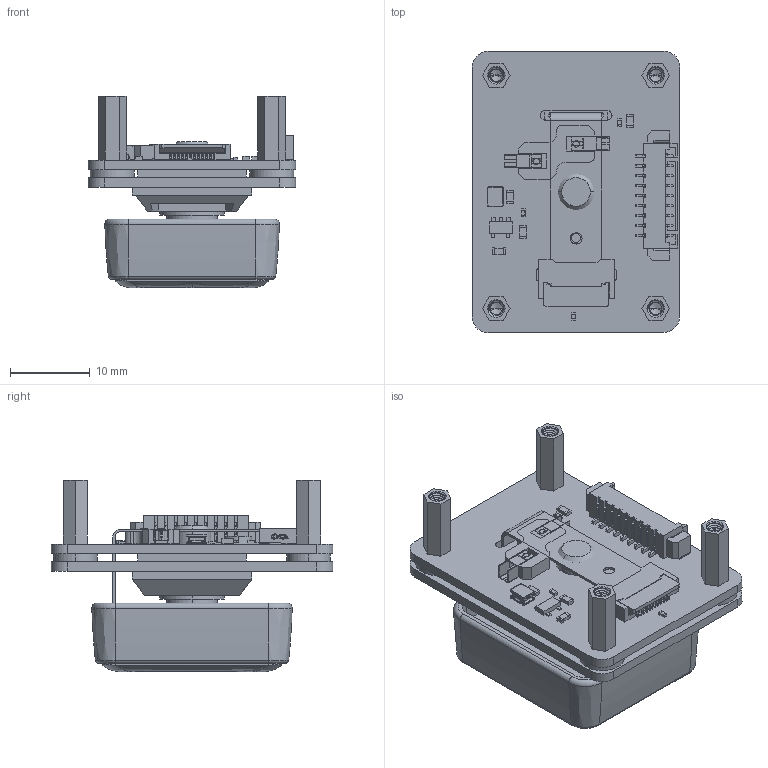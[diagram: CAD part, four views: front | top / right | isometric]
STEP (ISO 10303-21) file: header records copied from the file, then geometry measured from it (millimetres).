
FILE_DESCRIPTION((''),'2;1');
FILE_NAME('0_85INCH-SCREENKEY-MODULE-B_ASM','2026-07-10T17:13:13',('ag'),(''),'CREO PARAMETRIC BY PTC INC, 2021063','CREO PARAMETRIC BY PTC INC, 2021063','');
FILE_SCHEMA(('CONFIG_CONTROL_DESIGN','SHAPE_APPEARANCE_LAYERS_GROUPS'));
Length unit declared in the file: millimetre
Products named in the file (14): 0_85INCH_SCREENKEY_MODULE_ASM; BOARD-TOP; S1-LCD-085_1; S1-KEY-PLASTIC_1; S1-KEY-LENS_1; S1-KEY-RUBBER_1; S1-MAIN-LENS-RON_1; S1-MAIN-PAOMIAN_1_1; S1-MAIN-PAOMIAN_1_2; S1-MAIN-PAOMIAN_1_ASM; ONE-KEY-O85-FPC_1; S1-KEY-ONE_ASM_1_ASM; HEX_STUDS-M2XH8-3; 0_85INCH-SCREENKEY-MODULE-B_ASM
Assembly tree (16 placements, depth 4):
  0_85INCH-SCREENKEY-MODULE-B_ASM
    0_85INCH_SCREENKEY_MODULE_ASM
    BOARD-TOP
    S1-KEY-ONE_ASM_1_ASM
      S1-LCD-085_1
      S1-KEY-PLASTIC_1
      S1-KEY-LENS_1
      S1-KEY-RUBBER_1
      S1-MAIN-LENS-RON_1
      S1-MAIN-PAOMIAN_1_ASM
        S1-MAIN-PAOMIAN_1_1
        S1-MAIN-PAOMIAN_1_2
      ONE-KEY-O85-FPC_1
    HEX_STUDS-M2XH8-3  x4
Bounding box: 26.03 x 35.31 x 24 mm (x, y, z)
Volume: 6205 mm3; surface area: 12077.9 mm2
Topology: 14 solids, 16 shells, 2924 faces, 8241 edges, 5415 vertices
Faces by surface type: plane 1772, cylinder 707, extrusion 276, bspline 87, torus 44, cone 38
Entity records: 117710 total; most frequent: CARTESIAN_POINT 24371, ORIENTED_EDGE 15097, DIRECTION 12981, EDGE_CURVE 7565, PRESENTATION_STYLE_ASSIGNMENT 6213, STYLED_ITEM 5917, VECTOR 5909, LINE 5633
